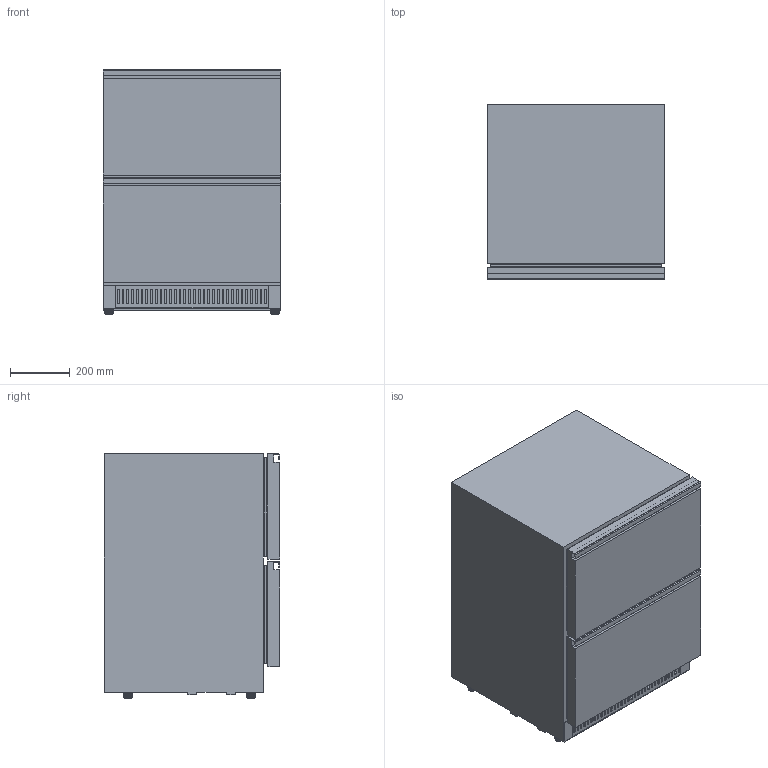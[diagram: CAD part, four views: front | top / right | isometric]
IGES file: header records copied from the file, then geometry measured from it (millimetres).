
Global section: file name: FD1-110_MOCKUP; native system: unknown; preprocessor: unknown; author: unknown; organization: unknown; date: 20260225.155016; units: millimetre
Bounding box: 595 x 589.8 x 821.2 mm (x, y, z)
Volume: 157312183.9 mm3; surface area: 7319703.9 mm2
Topology: 10 solids, 10 shells, 922 faces, 2424 edges, 1544 vertices
Faces by surface type: bspline 922
